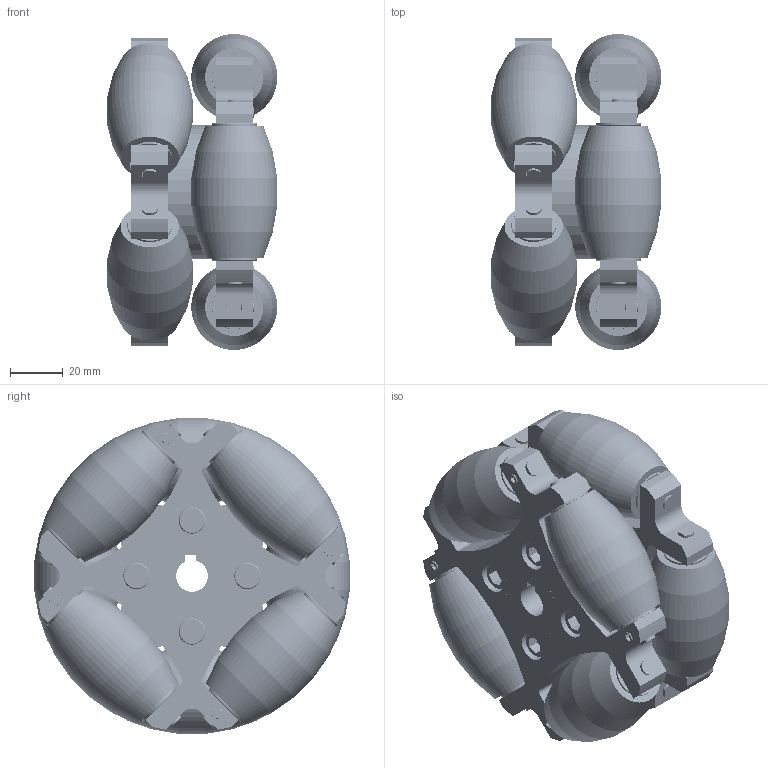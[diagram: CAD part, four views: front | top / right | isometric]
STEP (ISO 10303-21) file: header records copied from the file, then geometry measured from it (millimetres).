
FILE_DESCRIPTION (( 'STEP AP214' ), '1' );
FILE_NAME ('NW120A.STEP', '2019-07-20T10:56:04', ( 'Windows 蚚誧' ), ( '' ), 'SwSTEP 2.0', 'SolidWorks 2019', '' );
FILE_SCHEMA (( 'AUTOMOTIVE_DESIGN' ));
Length unit declared in the file: millimetre
Products named in the file (10): 儂譙蹟佪-M4x4.5; NW127A-4; NW120A; 粣創686zz; NW127A-2; NW120A-1; 蹟佪-M6X20; NW120A-2; 菜え-17x5x1mm; NW120A-2-1
Assembly tree (91 placements, depth 2):
  NW120A
    NW127A-2
    NW120A-1  x2
    NW127A-4  x8
    NW120A-2  x8
    NW120A-2-1  x8
    粣創686zz  x32
    蹟佪-M6X20  x8
    菜え-17x5x1mm  x16
    儂譙蹟佪-M4x4.5  x8
Bounding box: 64.54 x 119.54 x 119.54 mm (x, y, z)
Volume: 415650.3 mm3; surface area: 215371.2 mm2
Topology: 475 solids, 475 shells, 2920 faces, 7124 edges, 4496 vertices
Faces by surface type: cylinder 749, torus 720, sphere 704, plane 475, cone 272
Entity records: 9267 total; most frequent: DIRECTION 1681, CARTESIAN_POINT 1595, ORIENTED_EDGE 1246, AXIS2_PLACEMENT_3D 702, EDGE_CURVE 623, VERTEX_POINT 404, EDGE_LOOP 341, CIRCLE 338
